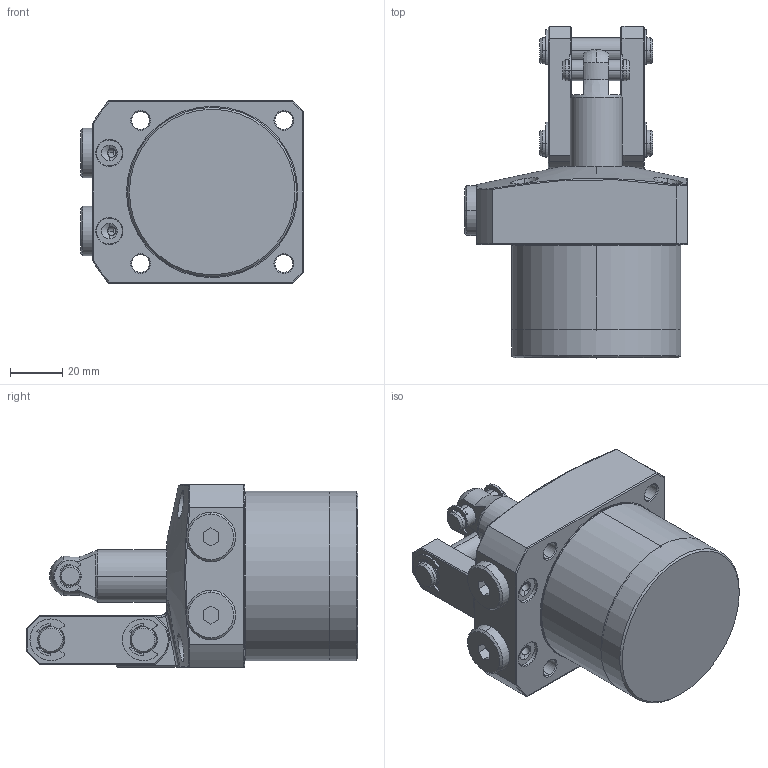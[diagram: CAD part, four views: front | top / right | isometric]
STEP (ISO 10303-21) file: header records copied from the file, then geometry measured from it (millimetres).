
FILE_DESCRIPTION(/* description */ (''),/* implementation_level */ '2;1');
FILE_NAME(/* name */ 'KTPC65-L.stp',/* time_stamp */ '2022-11-18T15:19:59+08:00',/* author */ (''),/* organization */ (''),/* preprocessor_version */ 'ST-DEVELOPER v16.7',/* originating_system */ 'SIEMENS PLM Software NX 12.0',/* authorisation */ '');
FILE_SCHEMA (('AP203_CONFIGURATION_CONTROLLED_3D_DESIGN_OF_MECHANICAL_PARTS_AND_ASSEMBLIES_MIM_LF { 1 0 10303 403 2 1 2}'));
Length unit declared in the file: millimetre
Products named in the file (10): KTPC65-L-07; KTPC65-L-01; KTPC65-L-02; KTPC65-L-04; KTPC65-L-03; KTPC65-L-06; KTPC65-L-05; KTPC65-L-08; KTPC65-L-09; LKA0650-CL_step
Assembly tree (16 placements, depth 2):
  LKA0650-CL_step
    KTPC65-L-09  x4
    KTPC65-L-08  x2
    KTPC65-L-05  x2
    KTPC65-L-06
    KTPC65-L-03
    KTPC65-L-04  x2
    KTPC65-L-02
    KTPC65-L-01
    KTPC65-L-07  x2
Bounding box: 85.5 x 127.5 x 70 mm (x, y, z)
Volume: 437103 mm3; surface area: 63200.6 mm2
Topology: 16 solids, 16 shells, 559 faces, 1335 edges, 834 vertices
Faces by surface type: cylinder 232, plane 175, cone 71, torus 60, bspline 19, sphere 2
Full cylindrical faces by diameter (mm): 65 x1
Entity records: 12495 total; most frequent: CARTESIAN_POINT 3057, DIRECTION 1779, ORIENTED_EDGE 1630, EDGE_CURVE 815, AXIS2_PLACEMENT_3D 721, VERTEX_POINT 504, EDGE_LOOP 395, CIRCLE 371
